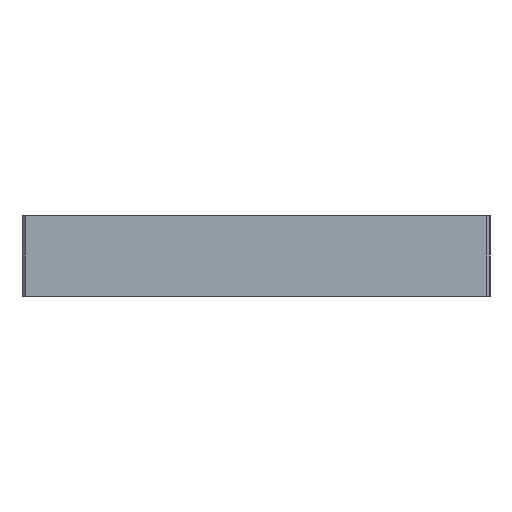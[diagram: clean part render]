
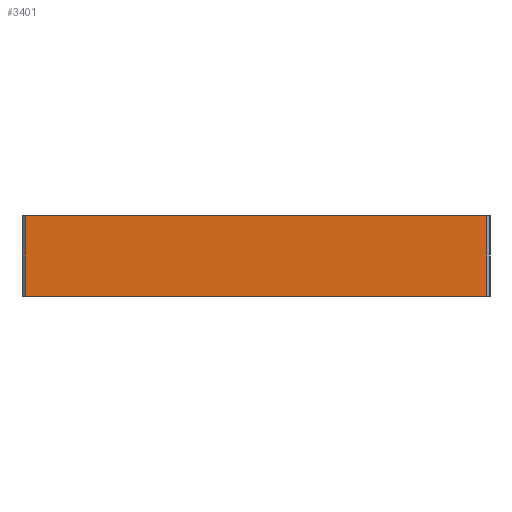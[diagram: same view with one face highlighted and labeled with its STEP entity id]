
A CAD part, left-side view. The second image highlights one B-rep face of the part: STEP entity #3401.
In plain terms, the highlighted planar face has unit normal (-1, 0, 0).
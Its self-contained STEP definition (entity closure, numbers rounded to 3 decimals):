
#450=FACE_OUTER_BOUND('',#649,.T.);
#649=EDGE_LOOP('',(#3009,#3010,#3011,#3012));
#952=LINE('',#6005,#1277);
#959=LINE('',#6028,#1284);
#961=LINE('',#6032,#1286);
#962=LINE('',#6033,#1287);
#1277=VECTOR('',#3993,10.);
#1284=VECTOR('',#4014,10.);
#1286=VECTOR('',#4018,10.);
#1287=VECTOR('',#4019,10.);
#1614=VERTEX_POINT('',#6001);
#1616=VERTEX_POINT('',#6004);
#1625=VERTEX_POINT('',#6026);
#1626=VERTEX_POINT('',#6031);
#2086=EDGE_CURVE('',#1616,#1614,#952,.T.);
#2096=EDGE_CURVE('',#1625,#1614,#959,.T.);
#2098=EDGE_CURVE('',#1625,#1626,#961,.T.);
#2099=EDGE_CURVE('',#1616,#1626,#962,.T.);
#3009=ORIENTED_EDGE('',*,*,#2096,.F.);
#3010=ORIENTED_EDGE('',*,*,#2098,.T.);
#3011=ORIENTED_EDGE('',*,*,#2099,.F.);
#3012=ORIENTED_EDGE('',*,*,#2086,.T.);
#3226=PLANE('',#3531);
#3401=ADVANCED_FACE('',(#450),#3226,.T.);
#3531=AXIS2_PLACEMENT_3D('',#6030,#4016,#4017);
#3993=DIRECTION('',(0.,-1.,0.));
#4014=DIRECTION('',(0.,0.,-1.));
#4016=DIRECTION('center_axis',(-1.,0.,0.));
#4017=DIRECTION('ref_axis',(0.,0.,1.));
#4018=DIRECTION('',(0.,1.,0.));
#4019=DIRECTION('',(0.,0.,1.));
#6001=CARTESIAN_POINT('',(-63.747,-30.775,0.));
#6004=CARTESIAN_POINT('',(-63.747,38.225,0.));
#6005=CARTESIAN_POINT('',(-63.747,38.725,0.));
#6026=CARTESIAN_POINT('',(-63.747,-30.775,12.));
#6028=CARTESIAN_POINT('',(-63.747,-30.775,0.));
#6030=CARTESIAN_POINT('Origin',(-63.747,-31.275,0.));
#6031=CARTESIAN_POINT('',(-63.747,38.225,12.));
#6032=CARTESIAN_POINT('',(-63.747,38.725,12.));
#6033=CARTESIAN_POINT('',(-63.747,38.225,0.));
